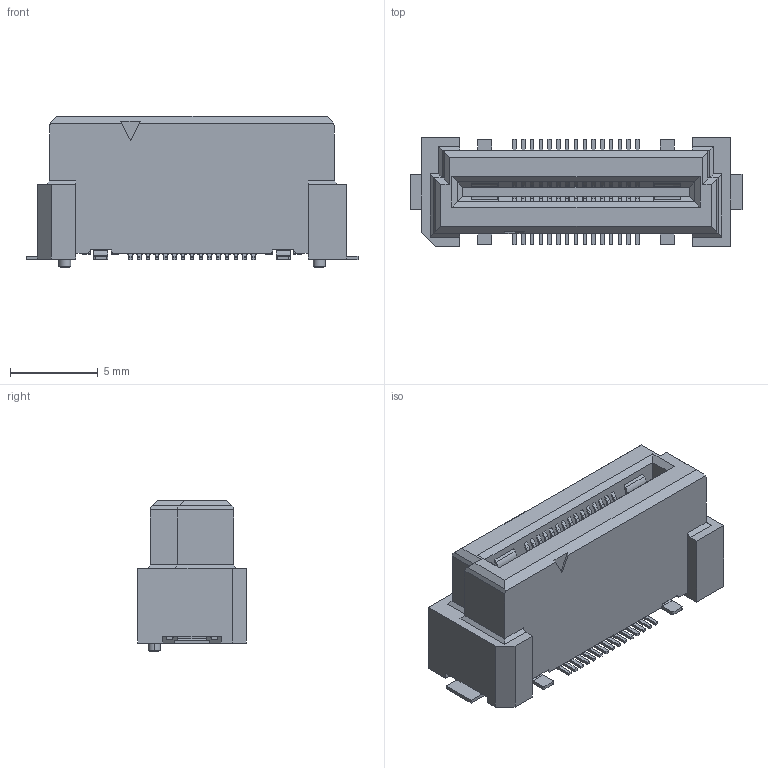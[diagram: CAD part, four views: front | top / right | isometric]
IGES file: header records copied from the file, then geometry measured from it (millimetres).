
Start section: Elysium IGES Interface
Global section: file name: C:\Users\1590\Desktop\DT11E-030S-10-T\P3E604_DT11E-030S-10-T.igs; native system: Creo Elements/Direct Modeling 20.6  25-Mar-2023; preprocessor: Creo Element/Direct IGES_3D V2.2; author: Unknown; organization: Unknown; date: 20240312.093936; units: millimetre
Bounding box: 18.9 x 6.2 x 8.63 mm (x, y, z)
Volume: 585.5 mm3; surface area: 735.6 mm2
Topology: 1 solids, 1 shells, 1371 faces, 3866 edges, 2544 vertices
Faces by surface type: bspline 1371
